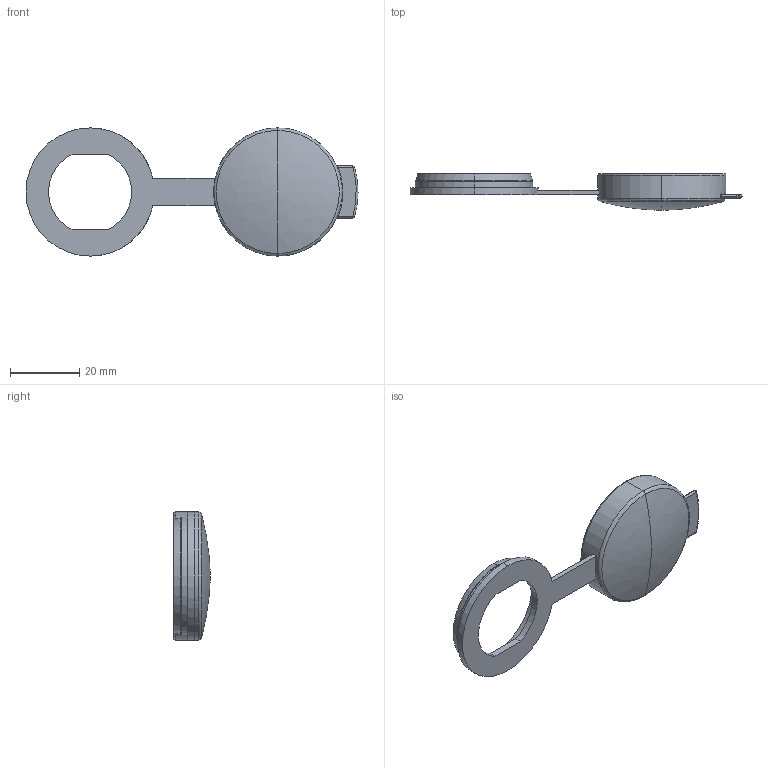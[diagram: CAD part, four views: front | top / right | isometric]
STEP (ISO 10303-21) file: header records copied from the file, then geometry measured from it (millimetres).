
FILE_DESCRIPTION (( 'STEP AP214' ), '1' );
FILE_NAME ('2.904.002.STEP', '2016-08-23T05:36:21', ( 'Krzysiek' ), ( '' ), 'SwSTEP 2.0', 'SolidWorks 2015', '' );
FILE_SCHEMA (( 'AUTOMOTIVE_DESIGN' ));
Length unit declared in the file: millimetre
Products named in the file (1): 2.904.002
Bounding box: 95.75 x 10.5 x 37 mm (x, y, z)
Volume: 3613.6 mm3; surface area: 6748.4 mm2
Topology: 1 solids, 1 shells, 60 faces, 139 edges, 82 vertices
Faces by surface type: bspline 21, cylinder 18, plane 17, cone 4
Entity records: 2114 total; most frequent: CARTESIAN_POINT 791, DIRECTION 272, ORIENTED_EDGE 270, EDGE_CURVE 135, AXIS2_PLACEMENT_3D 113, VERTEX_POINT 82, CIRCLE 73, EDGE_LOOP 67
